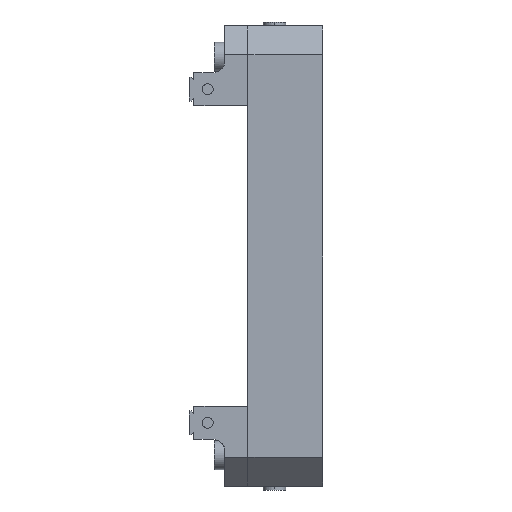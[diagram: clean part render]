
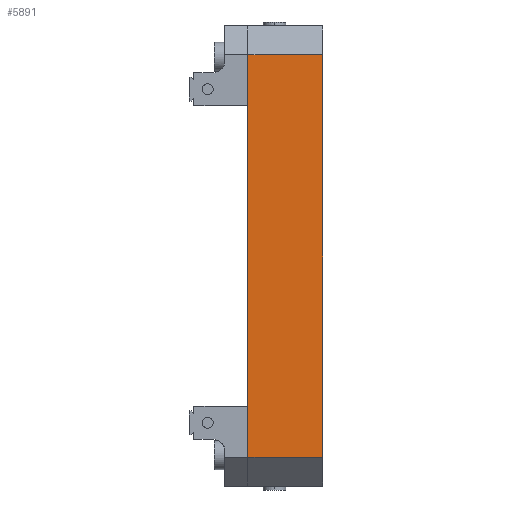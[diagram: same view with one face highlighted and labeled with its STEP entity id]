
A CAD part, left-side view. The second image highlights one B-rep face of the part: STEP entity #5891.
In plain terms, the highlighted planar face has unit normal (-1, 0, 0).
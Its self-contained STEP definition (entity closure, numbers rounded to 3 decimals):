
#11 = DIRECTION ( 'NONE',  ( 0., 0., -1. ) ) ;
#425 = DIRECTION ( 'NONE',  ( 0., 1., 0. ) ) ;
#989 = CARTESIAN_POINT ( 'NONE',  ( 0., 0., 254. ) ) ;
#1101 = PLANE ( 'NONE',  #2535 ) ;
#1149 = DIRECTION ( 'NONE',  ( 0., 0., -1. ) ) ;
#1193 = DIRECTION ( 'NONE',  ( 0., 1., 0. ) ) ;
#1262 = CARTESIAN_POINT ( 'NONE',  ( 0., 0., 15.875 ) ) ;
#1470 = EDGE_CURVE ( 'NONE', #1582, #4354, #5767, .T. ) ;
#1487 = VECTOR ( 'NONE', #425, 1000. ) ;
#1582 = VERTEX_POINT ( 'NONE', #3706 ) ;
#1636 = VECTOR ( 'NONE', #1149, 1000. ) ;
#1938 = VERTEX_POINT ( 'NONE', #1262 ) ;
#1979 = CARTESIAN_POINT ( 'NONE',  ( 0., 41.275, 238.125 ) ) ;
#2144 = CARTESIAN_POINT ( 'NONE',  ( 0., 0., 238.125 ) ) ;
#2512 = CARTESIAN_POINT ( 'NONE',  ( 0., 0., 254. ) ) ;
#2535 = AXIS2_PLACEMENT_3D ( 'NONE', #2512, #5460, #4509 ) ;
#2634 = VERTEX_POINT ( 'NONE', #3923 ) ;
#2918 = LINE ( 'NONE', #989, #5399 ) ;
#3019 = ORIENTED_EDGE ( 'NONE', *, *, #5976, .T. ) ;
#3542 = LINE ( 'NONE', #6159, #1636 ) ;
#3706 = CARTESIAN_POINT ( 'NONE',  ( 0., 0., 238.125 ) ) ;
#3723 = ORIENTED_EDGE ( 'NONE', *, *, #6272, .F. ) ;
#3818 = VECTOR ( 'NONE', #1193, 1000. ) ;
#3923 = CARTESIAN_POINT ( 'NONE',  ( 0., 41.275, 15.875 ) ) ;
#4266 = CARTESIAN_POINT ( 'NONE',  ( 0., 0., 15.875 ) ) ;
#4277 = ORIENTED_EDGE ( 'NONE', *, *, #1470, .T. ) ;
#4354 = VERTEX_POINT ( 'NONE', #1979 ) ;
#4509 = DIRECTION ( 'NONE',  ( 0., 0., -1. ) ) ;
#4664 = ORIENTED_EDGE ( 'NONE', *, *, #6031, .F. ) ;
#4735 = FACE_OUTER_BOUND ( 'NONE', #4815, .T. ) ;
#4771 = LINE ( 'NONE', #4266, #1487 ) ;
#4815 = EDGE_LOOP ( 'NONE', ( #3723, #4277, #3019, #4664 ) ) ;
#5399 = VECTOR ( 'NONE', #11, 1000. ) ;
#5460 = DIRECTION ( 'NONE',  ( 1., 0., 0. ) ) ;
#5767 = LINE ( 'NONE', #2144, #3818 ) ;
#5891 = ADVANCED_FACE ( 'NONE', ( #4735 ), #1101, .F. ) ;
#5976 = EDGE_CURVE ( 'NONE', #4354, #2634, #3542, .T. ) ;
#6031 = EDGE_CURVE ( 'NONE', #1938, #2634, #4771, .T. ) ;
#6159 = CARTESIAN_POINT ( 'NONE',  ( 0., 41.275, 254. ) ) ;
#6272 = EDGE_CURVE ( 'NONE', #1582, #1938, #2918, .T. ) ;
